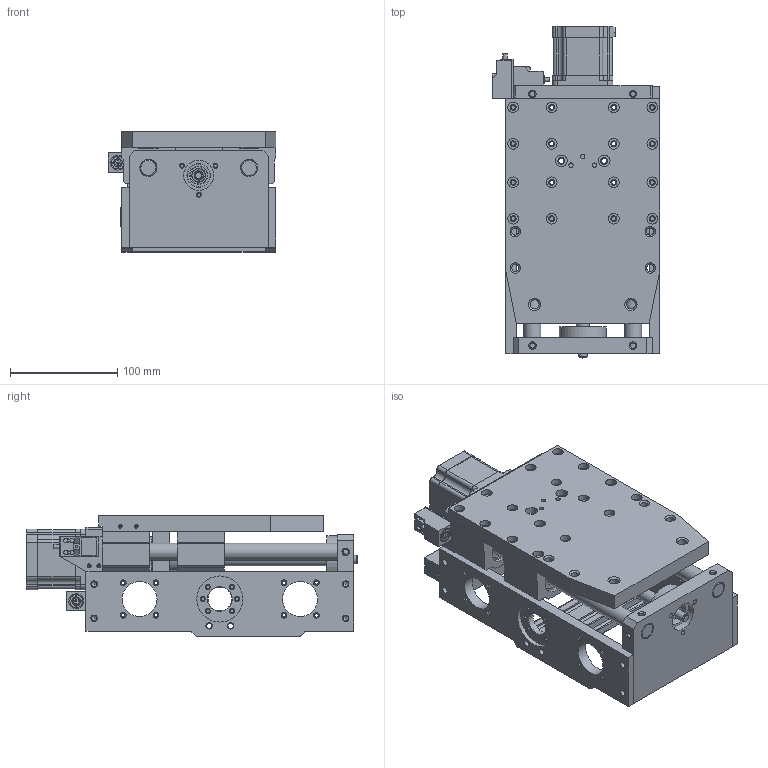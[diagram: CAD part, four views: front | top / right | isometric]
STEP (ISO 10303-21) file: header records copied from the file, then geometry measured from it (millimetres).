
FILE_DESCRIPTION(('STEP AP214'), '1');
FILE_NAME('RY-Z100-RA4 - Ìîäóëü îñè Z', '', ('UNSPECIFIED'), ('UNSPECIFIED'), 'C3D Converter', 'C3D Toolkit', '');
FILE_SCHEMA(('AUTOMOTIVE_DESIGN { 1 0 10303 214 3 1 1}'));
Length unit declared in the file: millimetre
Products named in the file (22): RY-Z100-RA4; PLRA4-03.008; PLRA4-01.015; PLRA4-01.001; PLRA4-07.001; PLRA4-01.012; PLRA4-01.013; PLRA4-01.018; PLRA4-01.005; PLRA4-01.027; PLRA4-01.002; PLRA4-07.002; RA0306-02.01.032
Assembly tree (25 placements, depth 3):
  RY-Z100-RA4
    PLRA4-03.008
    PLRA4-01.015
    PLRA4-01.001
    PLRA4-01.001
    (unnamed)
    PLRA4-07.001
    (unnamed)
    PLRA4-01.012
    PLRA4-01.013
    (unnamed)  x4
    PLRA4-01.018
    PLRA4-01.005
    (unnamed)  x2
    PLRA4-01.027
    PLRA4-01.002
    PLRA4-07.002
    RA0306-02.01.032
    (unnamed)
      (unnamed)
      (unnamed)
      (unnamed)
Bounding box: 156.6 x 310 x 113 mm (x, y, z)
Volume: 1621932.9 mm3; surface area: 406092.7 mm2
Topology: 26 solids, 26 shells, 1630 faces, 4194 edges, 2740 vertices
Faces by surface type: plane 770, cylinder 627, cone 152, extrusion 74, torus 7
Full cylindrical faces by diameter (mm): 2 x16, 2.459 x17, 2.5 x4, 3 x2, 3.242 x29, 3.5 x4, 4 x19, 4.134 x7, 4.5 x9, 4.917 x20, 5.1 x4, 5.5 x18, 5.8 x2, 6 x12, 6.5 x2, 6.647 x4, 8 x3, 8.376 x2, 10 x17, 11 x2, 12 x1, 13 x1, 14 x2, 16 x12, 17 x1, 22 x5, 28 x11, 32.7 x4, 38.1 x1, 38.2 x1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
Entity records: 46621 total; most frequent: CARTESIAN_POINT 8979, DIRECTION 6854, ORIENTED_EDGE 6346, EDGE_CURVE 3173, AXIS2_PLACEMENT_3D 2493, VERTEX_POINT 2277, EDGE_LOOP 2032, VECTOR 1868
